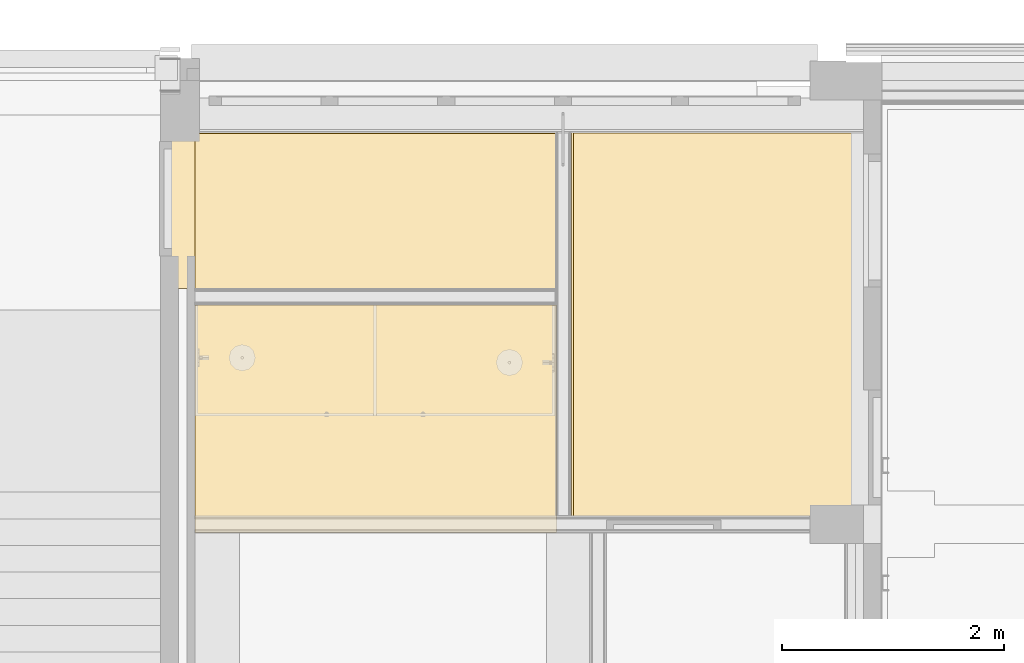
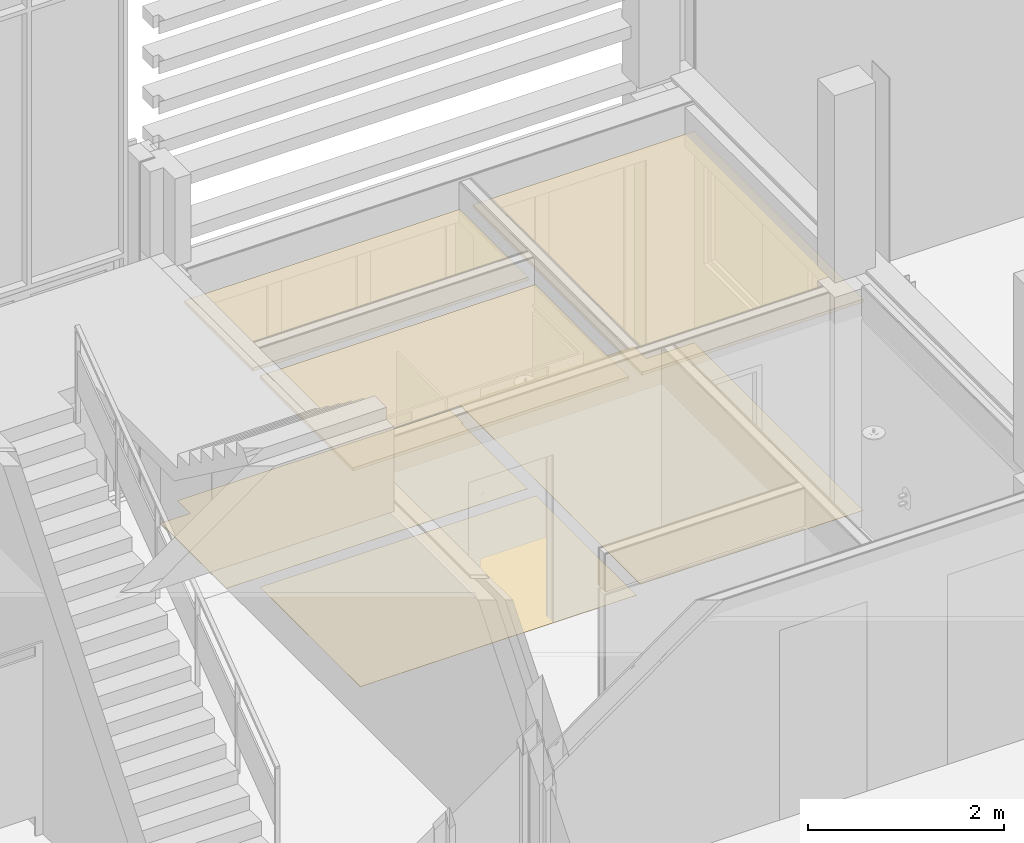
# One storey, part 90 of 109: 6 coverings.
"""IFC2X3 building model written with IfcOpenShell, lengths in millimetres."""

from ifc_helpers import new_model, entity, si_unit, converted_unit, derived_unit, money_unit, direction, frame, origin_with_axes, place, context, subcontext, project, spatial, faceted_brep, material, type_object, element, save


model = new_model("IFC2X3")

# Units and contexts
model_context = context("Model", 3, precision=0.01, world=origin_with_axes(), true_north=direction((0.0, 1.0)))
body_context = subcontext(model_context, "Body", "Model", "MODEL_VIEW")
ifc_project = project(units=[si_unit("LENGTHUNIT", "METRE", prefix="MILLI"), si_unit("AREAUNIT", "SQUARE_METRE"), si_unit("VOLUMEUNIT", "CUBIC_METRE"), converted_unit("PLANEANGLEUNIT", "DEGREE", entity("IfcPlaneAngleMeasure", 0.0174532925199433), si_unit("PLANEANGLEUNIT", "RADIAN"), dimensions=[0, 0, 0, 0, 0, 0, 0]), money_unit("EUR"), converted_unit("TIMEUNIT", "Year", entity("IfcTimeMeasure", 31557600.0), si_unit("TIMEUNIT", "SECOND"), dimensions=[0, 0, 1, 0, 0, 0, 0]), si_unit("MASSUNIT", "GRAM", prefix="KILO"), si_unit("THERMODYNAMICTEMPERATUREUNIT", "DEGREE_CELSIUS"), si_unit("LUMINOUSINTENSITYUNIT", "LUMEN"), si_unit("ENERGYUNIT", "JOULE", prefix="MEGA"), derived_unit("THERMALCONDUCTANCEUNIT", [(si_unit("POWERUNIT", "WATT"), 1), (si_unit("LENGTHUNIT", "METRE"), -1), (si_unit("THERMODYNAMICTEMPERATUREUNIT", "KELVIN"), -1)]), derived_unit("SPECIFICHEATCAPACITYUNIT", [(si_unit("ENERGYUNIT", "JOULE"), 1), (si_unit("MASSUNIT", "GRAM", prefix="KILO"), -1), (si_unit("THERMODYNAMICTEMPERATUREUNIT", "KELVIN"), -1)]), derived_unit("MASSDENSITYUNIT", [(si_unit("MASSUNIT", "GRAM", prefix="KILO"), 1), (si_unit("VOLUMEUNIT", "CUBIC_METRE"), -1)])], contexts=[model_context])

# Site, building, storey
site_placement = place(None, origin_with_axes())
site = spatial("IfcSite", under=ifc_project, at=site_placement, Name="<site naam>", CompositionType="ELEMENT")
building_placement = place(site_placement, origin_with_axes())
building = spatial("IfcBuilding", under=site, at=building_placement, Name="<Naam gebouw>", CompositionType="ELEMENT")
storey_placement = place(building_placement, origin_with_axes())
storey = spatial("IfcBuildingStorey", under=building, at=storey_placement, Name="00 Begane grond", CompositionType="ELEMENT", Elevation=0.0)

# Coverings
ifc_material_1 = material(Name="systeemplafond 600*600 kleur wit")
covering_type_1 = type_object("IfcCoveringType", Name="PA-01a 40", PredefinedType="CEILING")
covering_1_placement = place(storey_placement, frame((55543.30000000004, 16075.00000000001, 2600.0), z_axis=(0.0, 0.0, 1.0), x_axis=(1.0, 0.0, 0.0)))
element("IfcCovering", 1, at=covering_1_placement, inside=storey, type_object=covering_type_1, material=ifc_material_1, Name="45_Vloer_PA-01a", PredefinedType="CEILING", context=body_context, shape_type="Brep", body=[
    faceted_brep([(0.0, 0.0, 40.00000000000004), (0.0, 0.0, 0.0), (2614.482844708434, 0.0, 0.0), (2614.482844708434, 0.0, 40.00000000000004), (0.0, 3452.500191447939, 40.00000000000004), (0.0, 3452.500191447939, 0.0), (2614.482844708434, 3452.500191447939, 0.0), (2614.482844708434, 3452.500191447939, 40.00000000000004)], [[[0, 1, 2, 3]], [[4, 5, 1, 0]], [[2, 1, 5, 6]], [[3, 2, 6, 7]], [[4, 0, 3, 7]], [[7, 6, 5, 4]]]),
])
covering_2_placement = place(storey_placement, frame((52135.00000000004, 18125.00000000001, 2600.0), z_axis=(0.0, 0.0, 1.0), x_axis=(1.0, 0.0, 0.0)))
element("IfcCovering", 2, at=covering_2_placement, inside=storey, type_object=covering_type_1, material=ifc_material_1, Name="45_Vloer_PA-01a", PredefinedType="CEILING", context=body_context, shape_type="Brep", body=[
    faceted_brep([(0.0, 0.0, 40.00000000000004), (3254.198004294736, 0.0, 40.00000000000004), (3254.198004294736, 1396.999999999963, 40.00000000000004), (0.0, 1396.999999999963, 40.00000000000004), (0.0, 0.0, 0.0), (3254.198004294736, 0.0, 0.0), (3254.198004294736, 1396.999999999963, 0.0), (0.0, 1396.999999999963, 0.0)], [[[0, 1, 2, 3]], [[4, 5, 1, 0]], [[5, 6, 2, 1]], [[3, 2, 6, 7]], [[0, 3, 7, 4]], [[7, 6, 5, 4]]]),
])
ifc_material_2 = material(Name="systeemplafond 600*600 vochtbestendig")
covering_type_2 = type_object("IfcCoveringType", Name="PA-01b 40", PredefinedType="CEILING")
covering_3_placement = place(storey_placement, frame((52135.00000000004, 17975.00000256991, 2600.0), z_axis=(0.0, 0.0, 1.0), x_axis=(1.0, 0.0, 0.0)))
element("IfcCovering", 3, at=covering_3_placement, inside=storey, type_object=covering_type_2, material=ifc_material_2, Name="45_Vloer_PA-01b", PredefinedType="CEILING", context=body_context, shape_type="Brep", body=[
    faceted_brep([(0.0, -1900.0000025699, 40.00000000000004), (3254.198004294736, -1900.0000025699, 40.00000000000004), (3254.198004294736, 0.0, 40.00000000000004), (0.0, 0.0, 40.00000000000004), (0.0, -1900.0000025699, 0.0), (3254.198004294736, -1900.0000025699, 0.0), (3254.198004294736, 0.0, 0.0), (0.0, 0.0, 0.0)], [[[0, 1, 2, 3]], [[4, 5, 1, 0]], [[5, 6, 2, 1]], [[3, 2, 6, 7]], [[0, 3, 7, 4]], [[7, 6, 5, 4]]]),
])
ifc_material_3 = material(Name="Vinyl type 01b")
covering_type_3 = type_object("IfcCoveringType", Name="VA-01b 3", PredefinedType="CEILING")
covering_4_placement = place(storey_placement, frame((55526.69800429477, 16075.00000000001, 0.0), z_axis=(0.0, 0.0, 1.0), x_axis=(1.0, 0.0, 0.0)))
element("IfcCovering", 4, at=covering_4_placement, inside=storey, type_object=covering_type_3, material=ifc_material_3, Name="43_Vloer_VA-01b", PredefinedType="CEILING", context=body_context, shape_type="Brep", body=[
    faceted_brep([(0.0, 0.0, 3.0), (0.0, 0.0, 0.0), (2631.084809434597, 0.0, 0.0), (2631.084809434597, 0.0, 3.0), (0.0, 3698.800191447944, 3.0), (0.0, 3698.800191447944, 0.0), (2063.199985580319, 3698.800191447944, 0.0), (2063.199985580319, 3452.500191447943, 0.0), (2631.084809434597, 3452.500191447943, 0.0), (2631.084809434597, 3452.500191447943, 3.0), (2063.199985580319, 3452.500191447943, 3.0), (2063.199985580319, 3698.800191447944, 3.0)], [[[0, 1, 2, 3]], [[4, 5, 1, 0]], [[2, 1, 5, 6, 7, 8]], [[3, 2, 8, 9]], [[4, 0, 3, 9, 10, 11]], [[11, 6, 5, 4]], [[10, 7, 6, 11]], [[9, 8, 7, 10]]]),
])
covering_5_placement = place(storey_placement, frame((51825.00000000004, 18125.00000000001, 0.0), z_axis=(0.0, 0.0, 1.0), x_axis=(1.0, 0.0, 0.0)))
element("IfcCovering", 5, at=covering_5_placement, inside=storey, type_object=covering_type_3, material=ifc_material_3, Name="43_Vloer_VA-01b", PredefinedType="CEILING", context=body_context, shape_type="Brep", body=[
    faceted_brep([(0.0, 0.0, 3.0), (0.0, 0.0, 0.0), (3551.698004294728, 0.0, 0.0), (3551.698004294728, 0.0, 3.0), (0.0, 1345.000011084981, 3.0), (0.0, 1345.000011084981, 0.0), (349.9999677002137, 1345.000011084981, 0.0), (349.9999677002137, 1606.000008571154, 0.0), (3568.299999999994, 1606.000008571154, 0.0), (3568.299999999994, 1345.000011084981, 0.0), (3551.698004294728, 1345.000011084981, 0.0), (3551.698004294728, 1345.000011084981, 3.0), (3568.299999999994, 1345.000011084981, 3.0), (3568.299999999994, 1606.000008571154, 3.0), (349.9999677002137, 1606.000008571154, 3.0), (349.9999677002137, 1345.000011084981, 3.0)], [[[0, 1, 2, 3]], [[4, 5, 1, 0]], [[2, 1, 5, 6, 7, 8, 9, 10]], [[3, 2, 10, 11]], [[4, 0, 3, 11, 12, 13, 14, 15]], [[15, 6, 5, 4]], [[14, 7, 6, 15]], [[13, 8, 7, 14]], [[12, 9, 8, 13]], [[11, 10, 9, 12]]]),
])
ifc_material_4 = material(Name="Gietvloer type 02b")
covering_type_4 = type_object("IfcCoveringType", Name="VA-02b 3", PredefinedType="CEILING")
covering_6_placement = place(storey_placement, frame((52135.00000000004, 15925.00000000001, 0.0), z_axis=(0.0, 0.0, 1.0), x_axis=(1.0, 0.0, 0.0)))
element("IfcCovering", 6, at=covering_6_placement, inside=storey, type_object=covering_type_4, material=ifc_material_4, Name="43_Vloer_VA-02b", PredefinedType="CEILING", context=body_context, shape_type="Brep", body=[
    faceted_brep([(0.0, 0.0, 3.0), (0.0, 0.0, 0.0), (3258.299999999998, 0.0, 0.0), (3258.299999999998, 0.0, 3.0), (0.0, 2050.000000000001, 3.0), (0.0, 2050.000000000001, 0.0), (3258.299999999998, 2050.000000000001, 0.0), (3258.299999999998, 2050.000000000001, 3.0)], [[[0, 1, 2, 3]], [[4, 5, 1, 0]], [[2, 1, 5, 6]], [[3, 2, 6, 7]], [[4, 0, 3, 7]], [[7, 6, 5, 4]]]),
])

save(model, "model.ifc")
